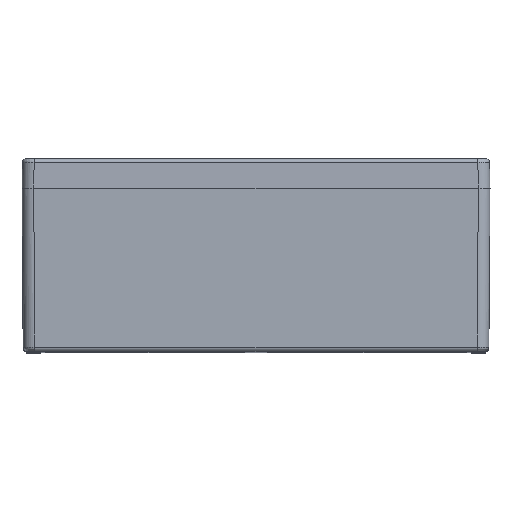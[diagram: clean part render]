
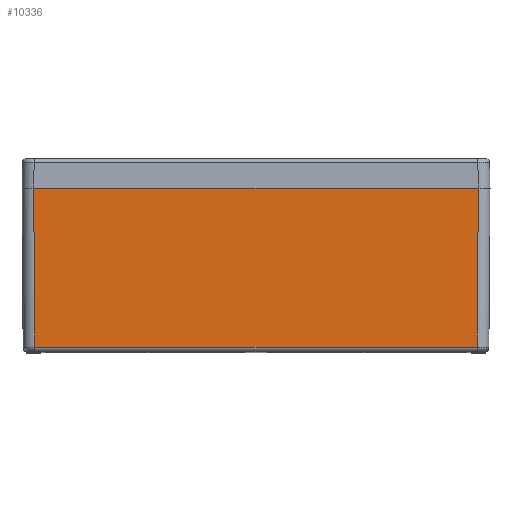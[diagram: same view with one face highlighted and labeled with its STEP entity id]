
A CAD part, top view. The second image highlights one B-rep face of the part: STEP entity #10336.
In plain terms, the highlighted planar face has unit normal (0, -0.007, 1).
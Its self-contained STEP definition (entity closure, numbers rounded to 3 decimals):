
#591=CARTESIAN_POINT('',(190.25,0.,202.75));
#604=DIRECTION('',(-1.,0.,0.));
#605=VECTOR('',#604,380.501);
#606=CARTESIAN_POINT('',(190.25,0.,202.75));
#607=LINE('',#606,#605);
#619=CARTESIAN_POINT('',(-190.25,0.,202.75));
#3583=CARTESIAN_POINT('',(189.279,-136.029,201.778));
#3588=DIRECTION('',(-1.,0.,0.));
#3589=VECTOR('',#3588,378.557);
#3590=CARTESIAN_POINT('',(189.279,-136.029,201.778));
#3591=LINE('',#3590,#3589);
#3595=DIRECTION('',(-0.007,1.,0.007));
#3596=VECTOR('',#3595,136.036);
#3597=CARTESIAN_POINT('',(-189.279,-136.029,
201.778));
#3598=LINE('',#3597,#3596);
#3602=DIRECTION('',(0.007,1.,0.007));
#3603=VECTOR('',#3602,136.036);
#3604=CARTESIAN_POINT('',(189.279,-136.029,201.778));
#3605=LINE('',#3604,#3603);
#4318=VERTEX_POINT('',#591);
#4321=VERTEX_POINT('',#619);
#4335=VERTEX_POINT('',#3583);
#4338=CARTESIAN_POINT('',(-189.279,-136.029,
201.778));
#4339=VERTEX_POINT('',#4338);
#10324=CARTESIAN_POINT('',(0.,-70.,202.25));
#10325=DIRECTION('',(0.,-0.007,1.));
#10326=DIRECTION('',(1.,0.,0.));
#10327=AXIS2_PLACEMENT_3D('',#10324,#10325,#10326);
#10328=PLANE('',#10327);
#10329=ORIENTED_EDGE('',*,*,#10045,.T.);
#10331=ORIENTED_EDGE('',*,*,#10330,.T.);
#10332=ORIENTED_EDGE('',*,*,#4822,.F.);
#10333=ORIENTED_EDGE('',*,*,#10310,.F.);
#10334=EDGE_LOOP('',(#10329,#10331,#10332,#10333));
#10335=FACE_OUTER_BOUND('',#10334,.F.);
#4822=EDGE_CURVE('',#4318,#4321,#607,.T.);
#10045=EDGE_CURVE('',#4335,#4339,#3591,.T.);
#10310=EDGE_CURVE('',#4335,#4318,#3605,.T.);
#10330=EDGE_CURVE('',#4339,#4321,#3598,.T.);
#10336=ADVANCED_FACE('',(#10335),#10328,.T.);
